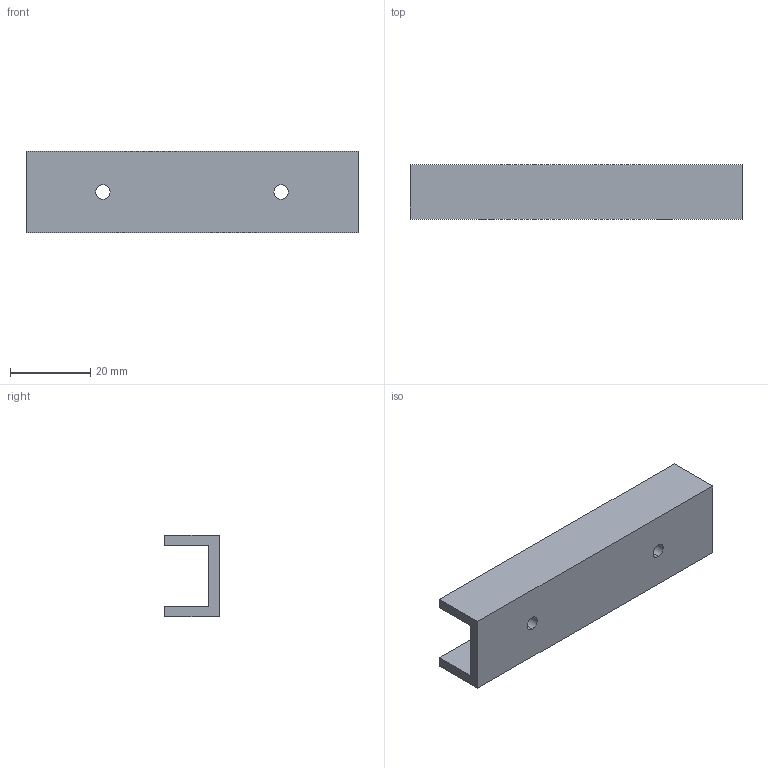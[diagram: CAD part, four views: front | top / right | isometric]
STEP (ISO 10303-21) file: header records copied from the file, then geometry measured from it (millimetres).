
FILE_DESCRIPTION (( 'STEP AP214' ), '1' );
FILE_NAME ('5060_V01_PRT_POCKET_PASS-THRU_SINGLE_CLIP_SERIES.STEP', '2025-04-11T13:10:15', ( '' ), ( '' ), 'SwSTEP 2.0', 'SolidWorks 2025', '' );
FILE_SCHEMA (( 'AUTOMOTIVE_DESIGN' ));
Length unit declared in the file: inch
Products named in the file (1): 5060_V01_PRT_POCKET_PASS-THRU_SINGLE_CLIP_SERIES
Bounding box: 82.85 x 13.54 x 20.37 mm (x, y, z)
Volume: 8865.7 mm3; surface area: 7673.7 mm2
Topology: 1 solids, 1 shells, 14 faces, 36 edges, 24 vertices
Faces by surface type: plane 10, cylinder 4
Entity records: 463 total; most frequent: CARTESIAN_POINT 75, DIRECTION 74, ORIENTED_EDGE 72, EDGE_CURVE 36, VECTOR 28, LINE 28, VERTEX_POINT 24, AXIS2_PLACEMENT_3D 23
